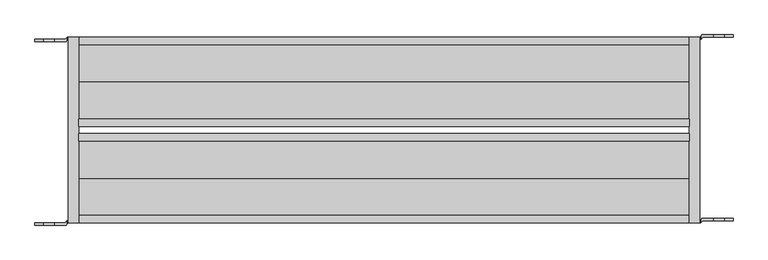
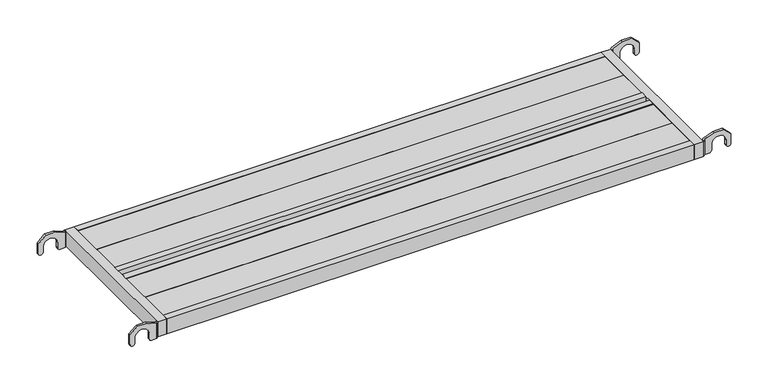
"""IFC4 building model written with IfcOpenShell, lengths in millimetres: proxy geometry, AK_アルバトロスAK全開閉式床付き布わく : ALTHM518S."""

from ifc_helpers import new_model, si_unit, frame, origin, place, context, project, spatial, polyline, circle_curve, outline, extrude, faceted_brep, source, transform, mapped, element, save
from ifc_brep_helpers import plane_surface, cylinder_surface, revolved_surface, advanced_brep


def generic_models_e8462fea(model_context):
    return source(origin(), model_context, "Body", "SolidModel", [
        extrude(outline(polyline([(1734.5, 486.0), (1734.5, 386.0), (94.5, 386.0), (94.5, 486.0), (1734.5, 486.0)])), frame((0.0, 0.0, 17.5), z_axis=(0.0, 0.0, 1.0), x_axis=(1.0, 0.0, 0.0)), (0.0, 0.0, 1.0), 5.0),
        extrude(outline(polyline([(1734.5, 386.0), (1734.5, 286.0), (94.5, 286.0), (94.5, 386.0), (1734.5, 386.0)])), frame((0.0, 0.0, 17.5), z_axis=(0.0, 0.0, 1.0), x_axis=(1.0, 0.0, 0.0)), (0.0, 0.0, 1.0), 5.0),
        extrude(outline(polyline([(1734.5, 226.0), (1734.5, 126.0), (94.5, 126.0), (94.5, 226.0), (1734.5, 226.0)])), frame((0.0, 0.0, 17.5), z_axis=(0.0, 0.0, 1.0), x_axis=(1.0, 0.0, 0.0)), (0.0, 0.0, 1.0), 5.0),
        extrude(outline(polyline([(1734.5, 126.0), (1734.5, 26.0), (94.5, 26.0), (94.5, 126.0), (1734.5, 126.0)])), frame((0.0, 0.0, 17.5), z_axis=(0.0, 0.0, 1.0), x_axis=(1.0, 0.0, 0.0)), (0.0, 0.0, 1.0), 5.0),
        extrude(outline(polyline([(1734.5, 286.0), (1734.5, 266.0), (94.5, 266.0), (94.5, 286.0), (1734.5, 286.0)])), frame((0.0, 0.0, -25.0), z_axis=(0.0, 0.0, 1.0), x_axis=(1.0, 0.0, 0.0)), (0.0, 0.0, 1.0), 50.0),
        extrude(outline(polyline([(1734.5, 246.0), (1734.5, 226.0), (94.5, 226.0), (94.5, 246.0), (1734.5, 246.0)])), frame((0.0, 0.0, -25.0), z_axis=(0.0, 0.0, 1.0), x_axis=(1.0, 0.0, 0.0)), (0.0, 0.0, 1.0), 50.0),
        advanced_brep(
        [(66.5, 12.0, 24.1), (66.5, 12.0, -24.1), (64.014719, 12.0, -24.1), (64.014719, 12.0, 24.1), (29.394201, 0.0, 37.5), (-0.394201, 0.0, 37.5), (-23.0, 0.0, 16.179605), (-23.0, 0.0, -15.0), (-8.0, 0.0, -15.0), (-8.0, 0.0, 0.0), (37.0, 0.0, 0.0), (37.0, 0.0, -16.6), (44.5, 0.0, -24.1), (60.6217706, 0.0, -24.1), (60.5, 0.0, 25.0482969), (66.5, 6.0, 24.1), (66.5, 6.0, -24.1), (44.5, 6.0, -24.1), (58.014719, 6.0, -24.1), (37.0, 6.0, -16.6), (37.0, 6.0, 0.0), (-8.0, 6.0, 0.0), (-8.0, 6.0, -15.0), (-23.0, 6.0, -15.0), (-23.0, 6.0, 16.179605), (-0.394201, 6.0, 37.5), (29.394201, 6.0, 37.5), (63.0, 2.5, 24.1), (63.0, 10.985281, 24.1), (58.014719, 6.0, 26.0878345)],
        [
            (0, 1),
            (1, 2),
            (2, 3),
            (3, 0),
            (4, 5),
            (5, 6),
            (6, 7),
            (7, 8, circle_curve(frame((-15.5, 0.0, -15.0), z_axis=(0.0, -1.0, 0.0), x_axis=(-1.0, 0.0, 0.0)), 7.5)),
            (8, 9),
            (9, 10, circle_curve(frame((14.5, 0.0, 0.0), z_axis=(0.0, 1.0, 0.0), x_axis=(-1.0, 0.0, 0.0)), 22.5)),
            (10, 11),
            (11, 12, circle_curve(frame((44.5, 0.0, -16.6), z_axis=(0.0, -1.0, 0.0), x_axis=(-1.0, 0.0, 0.0)), 7.5)),
            (12, 13),
            (13, 14),
            (14, 4),
            (0, 15),
            (15, 16),
            (16, 1),
            (16, 13),
            (12, 17),
            (17, 18),
            (18, 2),
            (11, 19),
            (19, 17, circle_curve(frame((44.5, 6.0, -16.6), z_axis=(0.0, -1.0, 0.0), x_axis=(-1.0, 0.0, 0.0)), 7.5)),
            (10, 20),
            (20, 19),
            (9, 21),
            (21, 20, circle_curve(frame((14.5, 6.0, 0.0), z_axis=(0.0, 1.0, 0.0), x_axis=(-1.0, 0.0, 0.0)), 22.5)),
            (8, 22),
            (22, 21),
            (7, 23),
            (23, 22, circle_curve(frame((-15.5, 6.0, -15.0), z_axis=(0.0, -1.0, 0.0), x_axis=(-1.0, 0.0, 0.0)), 7.5)),
            (6, 24),
            (24, 23),
            (5, 25),
            (25, 24),
            (4, 26),
            (26, 25),
            (14, 27),
            (27, 28),
            (28, 29),
            (29, 26),
            (3, 28),
            (27, 15),
            (29, 18),
        ],
        [
            plane_surface(frame((66.5, 12.0, -24.1), z_axis=(0.0, 1.0, 0.0), x_axis=(0.0, 0.0, -1.0))),
            plane_surface(frame((66.5, 0.0, -24.1), z_axis=(0.0, -1.0, 0.0), x_axis=(0.0, 0.0, 1.0))),
            plane_surface(frame((66.5, 12.0, 24.1), z_axis=(1.0, 0.0, 0.0), x_axis=(0.0, -1.0, 0.0))),
            plane_surface(frame((66.5, 12.0, -24.1), z_axis=(0.0, 0.0, -1.0), x_axis=(0.0, -1.0, 0.0))),
            cylinder_surface(frame((44.5, 0.0, -16.6), z_axis=(0.0, 1.0, 0.0), x_axis=(-1.0, 0.0, 0.0)), 7.5),
            plane_surface(frame((37.0, 12.0, -16.6), z_axis=(-1.0, 0.0, 0.0), x_axis=(0.0, -1.0, 0.0))),
            revolved_surface(polyline([(-8.0, 0.0, 0.0), (-8.0, 6.0, 0.0)]), (14.5, 0.0, 0.0), (0.0, -1.0, 0.0)),
            plane_surface(frame((-8.0, 12.0, 0.0), z_axis=(1.0, 0.0, 0.0), x_axis=(0.0, -1.0, 0.0))),
            cylinder_surface(frame((-15.5, 0.0, -15.0), z_axis=(0.0, 1.0, 0.0), x_axis=(-1.0, 0.0, 0.0)), 7.5),
            plane_surface(frame((-23.0, 12.0, -15.0), z_axis=(-1.0, 0.0, 0.0), x_axis=(0.0, -1.0, 0.0))),
            plane_surface(frame((-23.0, 12.0, 16.179605), z_axis=(-0.6861211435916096, 0.0, 0.7274873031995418), x_axis=(0.0, -1.0, 0.0))),
            plane_surface(frame((-0.394201, 12.0, 37.5), z_axis=(0.0, 0.0, 1.0), x_axis=(0.0, -1.0, 0.0))),
            plane_surface(frame((29.394201, 12.0, 37.5), z_axis=(0.37038206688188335, 0.0, 0.9288794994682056), x_axis=(0.0, -1.0, 0.0))),
            plane_surface(frame((63.0, 12.0, 24.1), z_axis=(0.0, 0.0, 1.0), x_axis=(0.0, -1.0, 0.0))),
            plane_surface(frame((66.5, 6.0, 56.3400495), z_axis=(0.7071067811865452, -0.7071067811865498, 0.0), x_axis=(0.0, 0.0, -1.0))),
            plane_surface(frame((-24.466615, 6.0, 56.3400495), z_axis=(0.0, 1.0, 0.0), x_axis=(0.0, 0.0, -1.0))),
            plane_surface(frame((58.014719, 6.0, 56.3400495), z_axis=(-0.7071067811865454, 0.7071067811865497, 0.0), x_axis=(0.0, 0.0, -1.0))),
        ],
        [
            (0, [[1, 2, 3, 4]]),
            (1, [[5, 6, 7, 8, 9, 10, 11, 12, 13, 14, 15]]),
            (2, [[-1, 16, 17, 18]]),
            (3, [[-2, -18, 19, -13, 20, 21, 22]]),
            (4, [[-12, 23, 24, -20]]),
            (5, [[-11, 25, 26, -23]]),
            (6, [[-10, 27, 28, -25]]),
            (7, [[-9, 29, 30, -27]]),
            (8, [[-8, 31, 32, -29]]),
            (9, [[-7, 33, 34, -31]]),
            (10, [[-6, 35, 36, -33]]),
            (11, [[-5, 37, 38, -35]]),
            (12, [[-15, 39, 40, 41, 42, -37]]),
            (13, [[-4, 43, -40, 44, -16]]),
            (14, [[-14, -19, -17, -44, -39]]),
            (15, [[45, -21, -24, -26, -28, -30, -32, -34, -36, -38, -42]]),
            (16, [[-45, -41, -43, -3, -22]]),
        ],
    ),
        advanced_brep(
        [(66.5, 506.0, 24.1), (66.5, 506.0, -24.1), (64.014719, 506.0, -24.1), (64.014719, 506.0, 24.1), (29.394201, 494.0, 37.5), (-0.394201, 494.0, 37.5), (-23.0, 494.0, 16.179605), (-23.0, 494.0, -15.0), (-8.0, 494.0, -15.0), (-8.0, 494.0, 0.0), (37.0, 494.0, 0.0), (37.0, 494.0, -16.6), (44.5, 494.0, -24.1), (60.6217706, 494.0, -24.1), (60.5, 494.0, 25.0482969), (66.5, 500.0, 24.1), (66.5, 500.0, -24.1), (44.5, 500.0, -24.1), (58.014719, 500.0, -24.1), (37.0, 500.0, -16.6), (37.0, 500.0, 0.0), (-8.0, 500.0, 0.0), (-8.0, 500.0, -15.0), (-23.0, 500.0, -15.0), (-23.0, 500.0, 16.179605), (-0.394201, 500.0, 37.5), (29.394201, 500.0, 37.5), (63.0, 496.5, 24.1), (63.0, 504.985281, 24.1), (58.014719, 500.0, 26.0878345)],
        [
            (0, 1),
            (1, 2),
            (2, 3),
            (3, 0),
            (4, 5),
            (5, 6),
            (6, 7),
            (7, 8, circle_curve(frame((-15.5, 494.0, -15.0), z_axis=(0.0, -1.0, 0.0), x_axis=(-1.0, 0.0, 0.0)), 7.5)),
            (8, 9),
            (9, 10, circle_curve(frame((14.5, 494.0, 0.0), z_axis=(0.0, 1.0, 0.0), x_axis=(-1.0, 0.0, 0.0)), 22.5)),
            (10, 11),
            (11, 12, circle_curve(frame((44.5, 494.0, -16.6), z_axis=(0.0, -1.0, 0.0), x_axis=(-1.0, 0.0, 0.0)), 7.5)),
            (12, 13),
            (13, 14),
            (14, 4),
            (0, 15),
            (15, 16),
            (16, 1),
            (16, 13),
            (12, 17),
            (17, 18),
            (18, 2),
            (11, 19),
            (19, 17, circle_curve(frame((44.5, 500.0, -16.6), z_axis=(0.0, -1.0, 0.0), x_axis=(-1.0, 0.0, 0.0)), 7.5)),
            (10, 20),
            (20, 19),
            (9, 21),
            (21, 20, circle_curve(frame((14.5, 500.0, 0.0), z_axis=(0.0, 1.0, 0.0), x_axis=(-1.0, 0.0, 0.0)), 22.5)),
            (8, 22),
            (22, 21),
            (7, 23),
            (23, 22, circle_curve(frame((-15.5, 500.0, -15.0), z_axis=(0.0, -1.0, 0.0), x_axis=(-1.0, 0.0, 0.0)), 7.5)),
            (6, 24),
            (24, 23),
            (5, 25),
            (25, 24),
            (4, 26),
            (26, 25),
            (14, 27),
            (27, 28),
            (28, 29),
            (29, 26),
            (3, 28),
            (27, 15),
            (29, 18),
        ],
        [
            plane_surface(frame((66.5, 506.0, -24.1), z_axis=(0.0, 1.0, 0.0), x_axis=(0.0, 0.0, -1.0))),
            plane_surface(frame((66.5, 494.0, -24.1), z_axis=(0.0, -1.0, 0.0), x_axis=(0.0, 0.0, 1.0))),
            plane_surface(frame((66.5, 506.0, 24.1), z_axis=(1.0, 0.0, 0.0), x_axis=(0.0, -1.0, 0.0))),
            plane_surface(frame((66.5, 506.0, -24.1), z_axis=(0.0, 0.0, -1.0), x_axis=(0.0, -1.0, 0.0))),
            cylinder_surface(frame((44.5, 494.0, -16.6), z_axis=(0.0, 1.0, 0.0), x_axis=(-1.0, 0.0, 0.0)), 7.5),
            plane_surface(frame((37.0, 506.0, -16.6), z_axis=(-1.0, 0.0, 0.0), x_axis=(0.0, -1.0, 0.0))),
            revolved_surface(polyline([(-8.0, 494.0, 0.0), (-8.0, 500.0, 0.0)]), (14.5, 494.0, 0.0), (0.0, -1.0, 0.0)),
            plane_surface(frame((-8.0, 506.0, 0.0), z_axis=(1.0, 0.0, 0.0), x_axis=(0.0, -1.0, 0.0))),
            cylinder_surface(frame((-15.5, 494.0, -15.0), z_axis=(0.0, 1.0, 0.0), x_axis=(-1.0, 0.0, 0.0)), 7.5),
            plane_surface(frame((-23.0, 506.0, -15.0), z_axis=(-1.0, 0.0, 0.0), x_axis=(0.0, -1.0, 0.0))),
            plane_surface(frame((-23.0, 506.0, 16.179605), z_axis=(-0.6861211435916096, 0.0, 0.7274873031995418), x_axis=(0.0, -1.0, 0.0))),
            plane_surface(frame((-0.394201, 506.0, 37.5), z_axis=(0.0, 0.0, 1.0), x_axis=(0.0, -1.0, 0.0))),
            plane_surface(frame((29.394201, 506.0, 37.5), z_axis=(0.37038206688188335, 0.0, 0.9288794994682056), x_axis=(0.0, -1.0, 0.0))),
            plane_surface(frame((63.0, 506.0, 24.1), z_axis=(0.0, 0.0, 1.0), x_axis=(0.0, -1.0, 0.0))),
            plane_surface(frame((66.5, 500.0, 56.3400495), z_axis=(0.7071067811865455, -0.7071067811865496, 0.0), x_axis=(0.0, 0.0, -1.0))),
            plane_surface(frame((-24.466615, 500.0, 56.3400495), z_axis=(0.0, 1.0, 0.0), x_axis=(0.0, 0.0, -1.0))),
            plane_surface(frame((58.014719, 500.0, 56.3400495), z_axis=(-0.7071067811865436, 0.7071067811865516, 0.0), x_axis=(0.0, 0.0, -1.0))),
        ],
        [
            (0, [[1, 2, 3, 4]]),
            (1, [[5, 6, 7, 8, 9, 10, 11, 12, 13, 14, 15]]),
            (2, [[-1, 16, 17, 18]]),
            (3, [[-2, -18, 19, -13, 20, 21, 22]]),
            (4, [[-12, 23, 24, -20]]),
            (5, [[-11, 25, 26, -23]]),
            (6, [[-10, 27, 28, -25]]),
            (7, [[-9, 29, 30, -27]]),
            (8, [[-8, 31, 32, -29]]),
            (9, [[-7, 33, 34, -31]]),
            (10, [[-6, 35, 36, -33]]),
            (11, [[-5, 37, 38, -35]]),
            (12, [[-15, 39, 40, 41, 42, -37]]),
            (13, [[-4, 43, -40, 44, -16]]),
            (14, [[-14, -19, -17, -44, -39]]),
            (15, [[45, -21, -24, -26, -28, -30, -32, -34, -36, -38, -42]]),
            (16, [[-45, -41, -43, -3, -22]]),
        ],
    ),
        advanced_brep(
        [(1762.5, 500.0, 24.1), (1762.5, 500.0, -24.1), (1764.985281, 500.0, -24.1), (1764.985281, 500.0, 24.1), (1799.605799, 512.0, 37.5), (1829.394201, 512.0, 37.5), (1852.0, 512.0, 16.179605), (1852.0, 512.0, -15.0), (1837.0, 512.0, -15.0), (1837.0, 512.0, 0.0), (1792.0, 512.0, 0.0), (1792.0, 512.0, -16.6), (1784.5, 512.0, -24.1), (1768.3782294, 512.0, -24.1), (1768.5, 512.0, 25.0482969), (1762.5, 506.0, 24.1), (1762.5, 506.0, -24.1), (1784.5, 506.0, -24.1), (1770.985281, 506.0, -24.1), (1792.0, 506.0, -16.6), (1792.0, 506.0, 0.0), (1837.0, 506.0, 0.0), (1837.0, 506.0, -15.0), (1852.0, 506.0, -15.0), (1852.0, 506.0, 16.179605), (1829.394201, 506.0, 37.5), (1799.605799, 506.0, 37.5), (1766.0, 509.5, 24.1), (1766.0, 501.014719, 24.1), (1770.985281, 506.0, 26.0878345)],
        [
            (0, 1),
            (1, 2),
            (2, 3),
            (3, 0),
            (4, 5),
            (5, 6),
            (6, 7),
            (7, 8, circle_curve(frame((1844.5, 512.0, -15.0), z_axis=(0.0, 1.0, 0.0), x_axis=(1.0, 0.0, 0.0)), 7.5)),
            (8, 9),
            (9, 10, circle_curve(frame((1814.5, 512.0, 0.0), z_axis=(0.0, -1.0, 0.0), x_axis=(1.0, 0.0, 0.0)), 22.5)),
            (10, 11),
            (11, 12, circle_curve(frame((1784.5, 512.0, -16.6), z_axis=(0.0, 1.0, 0.0), x_axis=(1.0, 0.0, 0.0)), 7.5)),
            (12, 13),
            (13, 14),
            (14, 4),
            (0, 15),
            (15, 16),
            (16, 1),
            (16, 13),
            (12, 17),
            (17, 18),
            (18, 2),
            (11, 19),
            (19, 17, circle_curve(frame((1784.5, 506.0, -16.6), z_axis=(0.0, 1.0, 0.0), x_axis=(1.0, 0.0, 0.0)), 7.5)),
            (10, 20),
            (20, 19),
            (9, 21),
            (21, 20, circle_curve(frame((1814.5, 506.0, 0.0), z_axis=(0.0, -1.0, 0.0), x_axis=(1.0, 0.0, 0.0)), 22.5)),
            (8, 22),
            (22, 21),
            (7, 23),
            (23, 22, circle_curve(frame((1844.5, 506.0, -15.0), z_axis=(0.0, 1.0, 0.0), x_axis=(1.0, 0.0, 0.0)), 7.5)),
            (6, 24),
            (24, 23),
            (5, 25),
            (25, 24),
            (4, 26),
            (26, 25),
            (14, 27),
            (27, 28),
            (28, 29),
            (29, 26),
            (3, 28),
            (27, 15),
            (29, 18),
        ],
        [
            plane_surface(frame((1762.5, 500.0, -24.1), z_axis=(0.0, -1.0, 0.0), x_axis=(0.0, 0.0, -1.0))),
            plane_surface(frame((1762.5, 512.0, -24.1), z_axis=(0.0, 1.0, 0.0), x_axis=(0.0, 0.0, 1.0))),
            plane_surface(frame((1762.5, 500.0, 24.1), z_axis=(-1.0, 0.0, 0.0), x_axis=(0.0, 1.0, 0.0))),
            plane_surface(frame((1762.5, 500.0, -24.1), z_axis=(0.0, 0.0, -1.0), x_axis=(0.0, 1.0, 0.0))),
            cylinder_surface(frame((1784.5, 512.0, -16.6), z_axis=(0.0, -1.0, 0.0), x_axis=(1.0, 0.0, 0.0)), 7.5),
            plane_surface(frame((1792.0, 500.0, -16.6), z_axis=(1.0, 0.0, 0.0), x_axis=(0.0, 1.0, 0.0))),
            revolved_surface(polyline([(1837.0, 512.0, 0.0), (1837.0, 506.0, 0.0)]), (1814.5, 512.0, 0.0), (0.0, 1.0, 0.0)),
            plane_surface(frame((1837.0, 500.0, 0.0), z_axis=(-1.0, 0.0, 0.0), x_axis=(0.0, 1.0, 0.0))),
            cylinder_surface(frame((1844.5, 512.0, -15.0), z_axis=(0.0, -1.0, 0.0), x_axis=(1.0, 0.0, 0.0)), 7.5),
            plane_surface(frame((1852.0, 500.0, -15.0), z_axis=(1.0, 0.0, 0.0), x_axis=(0.0, 1.0, 0.0))),
            plane_surface(frame((1852.0, 500.0, 16.179605), z_axis=(0.6861211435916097, 0.0, 0.7274873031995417), x_axis=(0.0, 1.0, 0.0))),
            plane_surface(frame((1829.394201, 500.0, 37.5), z_axis=(0.0, 0.0, 1.0), x_axis=(0.0, 1.0, 0.0))),
            plane_surface(frame((1799.605799, 500.0, 37.5), z_axis=(-0.3703820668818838, 0.0, 0.9288794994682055), x_axis=(0.0, 1.0, 0.0))),
            plane_surface(frame((1766.0, 500.0, 24.1), z_axis=(0.0, 0.0, 1.0), x_axis=(0.0, 1.0, 0.0))),
            plane_surface(frame((1762.5, 506.0, 56.3400495), z_axis=(-0.7071067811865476, 0.7071067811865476, 0.0), x_axis=(0.0, 0.0, -1.0))),
            plane_surface(frame((1853.466615, 506.0, 56.3400495), z_axis=(0.0, -1.0, 0.0), x_axis=(0.0, 0.0, -1.0))),
            plane_surface(frame((1770.985281, 506.0, 56.3400495), z_axis=(0.7071067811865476, -0.7071067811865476, 0.0), x_axis=(0.0, 0.0, -1.0))),
        ],
        [
            (0, [[1, 2, 3, 4]]),
            (1, [[5, 6, 7, 8, 9, 10, 11, 12, 13, 14, 15]]),
            (2, [[-1, 16, 17, 18]]),
            (3, [[-2, -18, 19, -13, 20, 21, 22]]),
            (4, [[-12, 23, 24, -20]]),
            (5, [[-11, 25, 26, -23]]),
            (6, [[-10, 27, 28, -25]]),
            (7, [[-9, 29, 30, -27]]),
            (8, [[-8, 31, 32, -29]]),
            (9, [[-7, 33, 34, -31]]),
            (10, [[-6, 35, 36, -33]]),
            (11, [[-5, 37, 38, -35]]),
            (12, [[-15, 39, 40, 41, 42, -37]]),
            (13, [[-4, 43, -40, 44, -16]]),
            (14, [[-14, -19, -17, -44, -39]]),
            (15, [[45, -21, -24, -26, -28, -30, -32, -34, -36, -38, -42]]),
            (16, [[-45, -41, -43, -3, -22]]),
        ],
    ),
        faceted_brep([(1734.5, 6.0, 25.0), (1762.5, 6.0, 25.0), (1762.5, 506.0, 25.0), (1759.9188858, 506.0, 25.0), (1734.5, 506.0, 25.0), (1734.5, 6.0, -25.0), (1734.5, 506.0, -25.0), (1759.9188858, 506.0, -25.0), (1762.5, 506.0, -25.0), (1762.5, 6.0, -25.0)], [[[0, 1, 2, 3, 4]], [[5, 6, 7, 8, 9]], [[1, 0, 5, 9]], [[2, 1, 9, 8]], [[2, 8, 7, 6, 4, 3]], [[0, 4, 6, 5]]]),
        advanced_brep(
        [(1762.5, 6.0, 24.1), (1762.5, 6.0, -24.1), (1764.985281, 6.0, -24.1), (1764.985281, 6.0, 24.1), (1799.605799, 18.0, 37.5), (1829.394201, 18.0, 37.5), (1852.0, 18.0, 16.179605), (1852.0, 18.0, -15.0), (1837.0, 18.0, -15.0), (1837.0, 18.0, 0.0), (1792.0, 18.0, 0.0), (1792.0, 18.0, -16.6), (1784.5, 18.0, -24.1), (1768.3782294, 18.0, -24.1), (1768.5, 18.0, 25.0482969), (1762.5, 12.0, 24.1), (1762.5, 12.0, -24.1), (1784.5, 12.0, -24.1), (1770.985281, 12.0, -24.1), (1792.0, 12.0, -16.6), (1792.0, 12.0, 0.0), (1837.0, 12.0, 0.0), (1837.0, 12.0, -15.0), (1852.0, 12.0, -15.0), (1852.0, 12.0, 16.179605), (1829.394201, 12.0, 37.5), (1799.605799, 12.0, 37.5), (1766.0, 15.5, 24.1), (1766.0, 7.014719, 24.1), (1770.985281, 12.0, 26.0878345)],
        [
            (0, 1),
            (1, 2),
            (2, 3),
            (3, 0),
            (4, 5),
            (5, 6),
            (6, 7),
            (7, 8, circle_curve(frame((1844.5, 18.0, -15.0), z_axis=(0.0, 1.0, 0.0), x_axis=(1.0, 0.0, 0.0)), 7.5)),
            (8, 9),
            (9, 10, circle_curve(frame((1814.5, 18.0, 0.0), z_axis=(0.0, -1.0, 0.0), x_axis=(1.0, 0.0, 0.0)), 22.5)),
            (10, 11),
            (11, 12, circle_curve(frame((1784.5, 18.0, -16.6), z_axis=(0.0, 1.0, 0.0), x_axis=(1.0, 0.0, 0.0)), 7.5)),
            (12, 13),
            (13, 14),
            (14, 4),
            (0, 15),
            (15, 16),
            (16, 1),
            (16, 13),
            (12, 17),
            (17, 18),
            (18, 2),
            (11, 19),
            (19, 17, circle_curve(frame((1784.5, 12.0, -16.6), z_axis=(0.0, 1.0, 0.0), x_axis=(1.0, 0.0, 0.0)), 7.5)),
            (10, 20),
            (20, 19),
            (9, 21),
            (21, 20, circle_curve(frame((1814.5, 12.0, 0.0), z_axis=(0.0, -1.0, 0.0), x_axis=(1.0, 0.0, 0.0)), 22.5)),
            (8, 22),
            (22, 21),
            (7, 23),
            (23, 22, circle_curve(frame((1844.5, 12.0, -15.0), z_axis=(0.0, 1.0, 0.0), x_axis=(1.0, 0.0, 0.0)), 7.5)),
            (6, 24),
            (24, 23),
            (5, 25),
            (25, 24),
            (4, 26),
            (26, 25),
            (14, 27),
            (27, 28),
            (28, 29),
            (29, 26),
            (3, 28),
            (27, 15),
            (29, 18),
        ],
        [
            plane_surface(frame((1762.5, 6.0, -24.1), z_axis=(0.0, -1.0, 0.0), x_axis=(0.0, 0.0, -1.0))),
            plane_surface(frame((1762.5, 18.0, -24.1), z_axis=(0.0, 1.0, 0.0), x_axis=(0.0, 0.0, 1.0))),
            plane_surface(frame((1762.5, 6.0, 24.1), z_axis=(-1.0, 0.0, 0.0), x_axis=(0.0, 1.0, 0.0))),
            plane_surface(frame((1762.5, 6.0, -24.1), z_axis=(0.0, 0.0, -1.0), x_axis=(0.0, 1.0, 0.0))),
            cylinder_surface(frame((1784.5, 18.0, -16.6), z_axis=(0.0, -1.0, 0.0), x_axis=(1.0, 0.0, 0.0)), 7.5),
            plane_surface(frame((1792.0, 6.0, -16.6), z_axis=(1.0, 0.0, 0.0), x_axis=(0.0, 1.0, 0.0))),
            revolved_surface(polyline([(1837.0, 18.0, 0.0), (1837.0, 12.0, 0.0)]), (1814.5, 18.0, 0.0), (0.0, 1.0, 0.0)),
            plane_surface(frame((1837.0, 6.0, 0.0), z_axis=(-1.0, 0.0, 0.0), x_axis=(0.0, 1.0, 0.0))),
            cylinder_surface(frame((1844.5, 18.0, -15.0), z_axis=(0.0, -1.0, 0.0), x_axis=(1.0, 0.0, 0.0)), 7.5),
            plane_surface(frame((1852.0, 6.0, -15.0), z_axis=(1.0, 0.0, 0.0), x_axis=(0.0, 1.0, 0.0))),
            plane_surface(frame((1852.0, 6.0, 16.179605), z_axis=(0.6861211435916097, 0.0, 0.7274873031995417), x_axis=(0.0, 1.0, 0.0))),
            plane_surface(frame((1829.394201, 6.0, 37.5), z_axis=(0.0, 0.0, 1.0), x_axis=(0.0, 1.0, 0.0))),
            plane_surface(frame((1799.605799, 6.0, 37.5), z_axis=(-0.3703820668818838, 0.0, 0.9288794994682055), x_axis=(0.0, 1.0, 0.0))),
            plane_surface(frame((1766.0, 6.0, 24.1), z_axis=(0.0, 0.0, 1.0), x_axis=(0.0, 1.0, 0.0))),
            plane_surface(frame((1762.5, 12.0, 56.3400495), z_axis=(-0.7071067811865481, 0.7071067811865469, 0.0), x_axis=(0.0, 0.0, -1.0))),
            plane_surface(frame((1853.466615, 12.0, 56.3400495), z_axis=(0.0, -1.0, 0.0), x_axis=(0.0, 0.0, -1.0))),
            plane_surface(frame((1770.985281, 12.0, 56.3400495), z_axis=(0.7071067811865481, -0.7071067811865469, 0.0), x_axis=(0.0, 0.0, -1.0))),
        ],
        [
            (0, [[1, 2, 3, 4]]),
            (1, [[5, 6, 7, 8, 9, 10, 11, 12, 13, 14, 15]]),
            (2, [[-1, 16, 17, 18]]),
            (3, [[-2, -18, 19, -13, 20, 21, 22]]),
            (4, [[-12, 23, 24, -20]]),
            (5, [[-11, 25, 26, -23]]),
            (6, [[-10, 27, 28, -25]]),
            (7, [[-9, 29, 30, -27]]),
            (8, [[-8, 31, 32, -29]]),
            (9, [[-7, 33, 34, -31]]),
            (10, [[-6, 35, 36, -33]]),
            (11, [[-5, 37, 38, -35]]),
            (12, [[-15, 39, 40, 41, 42, -37]]),
            (13, [[-4, 43, -40, 44, -16]]),
            (14, [[-14, -19, -17, -44, -39]]),
            (15, [[45, -21, -24, -26, -28, -30, -32, -34, -36, -38, -42]]),
            (16, [[-45, -41, -43, -3, -22]]),
        ],
    ),
        extrude(outline(polyline([(66.5, 6.0), (66.5, 506.0), (94.5, 506.0), (94.5, 6.0), (66.5, 6.0)])), frame((0.0, 0.0, -25.0), z_axis=(0.0, 0.0, 1.0), x_axis=(1.0, 0.0, 0.0)), (0.0, 0.0, 1.0), 50.0),
        extrude(outline(polyline([(1734.5, 506.0), (1734.5, 486.0), (94.5, 486.0), (94.5, 506.0), (1734.5, 506.0)])), frame((0.0, 0.0, -25.0), z_axis=(0.0, 0.0, 1.0), x_axis=(1.0, 0.0, 0.0)), (0.0, 0.0, 1.0), 50.0),
        extrude(outline(polyline([(1734.5, 26.0), (1734.5, 6.0), (94.5, 6.0), (94.5, 26.0), (1734.5, 26.0)])), frame((0.0, 0.0, -25.0), z_axis=(0.0, 0.0, 1.0), x_axis=(1.0, 0.0, 0.0)), (0.0, 0.0, 1.0), 50.0),
    ])


if __name__ == "__main__":
    model = new_model("IFC4")
    model_context = context("Model", 3, world=origin())
    ifc_project = project(units=[si_unit("LENGTHUNIT", "METRE", prefix="MILLI")], contexts=[model_context])
    site = spatial("IfcSite", under=ifc_project)
    building = spatial("IfcBuilding", under=site)
    placement = place(None, origin())
    generic_models_shape = generic_models_e8462fea(model_context)
    element("IfcBuildingElementProxy", 1, Name="AK_アルバトロスAK全開閉式床付き布わく : ALTHM518S", ObjectType="AK_アルバトロスAK全開閉式床付き布わく : ALTHM518S", at=placement, inside=building, context=model_context, shape_type="MappedRepresentation", body=[
        mapped(generic_models_shape, transform((0.0, 0.0, 0.0), x_axis=(1.0, 0.0, 0.0), y_axis=(0.0, 1.0, 0.0), z_axis=(0.0, 0.0, 1.0))),
    ])
    save(model, "model.ifc")
